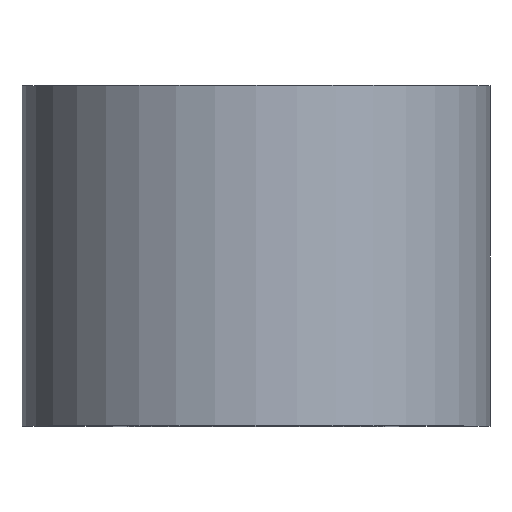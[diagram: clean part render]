
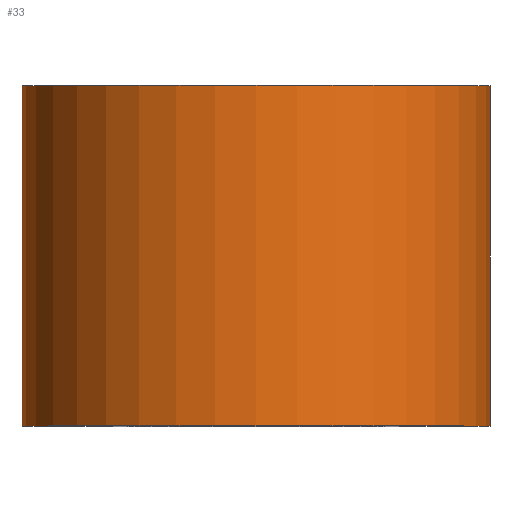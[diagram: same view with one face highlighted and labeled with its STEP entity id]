
A CAD part, top view. The second image highlights one B-rep face of the part: STEP entity #33.
In plain terms, the highlighted cylindrical face has radius 11 mm (diameter 22 mm), a partial arc.
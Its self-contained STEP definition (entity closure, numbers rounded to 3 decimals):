
#3 = VECTOR ( 'NONE', #57, 1000. ) ;
#8 = DIRECTION ( 'NONE',  ( -1., 0., 0. ) ) ;
#32 = DIRECTION ( 'NONE',  ( 0., 1., 0. ) ) ;
#33 = ADVANCED_FACE ( 'NONE', ( #43 ), #268, .T. ) ;
#37 = LINE ( 'NONE', #49, #88 ) ;
#42 = ORIENTED_EDGE ( 'NONE', *, *, #262, .T. ) ;
#43 = FACE_OUTER_BOUND ( 'NONE', #212, .T. ) ;
#49 = CARTESIAN_POINT ( 'NONE',  ( 11., 0., 0. ) ) ;
#50 = CARTESIAN_POINT ( 'NONE',  ( 0., 16., 0. ) ) ;
#53 = CARTESIAN_POINT ( 'NONE',  ( 0., 0., 0. ) ) ;
#57 = DIRECTION ( 'NONE',  ( 0., 1., 0. ) ) ;
#59 = DIRECTION ( 'NONE',  ( 0., 1., 0. ) ) ;
#66 = LINE ( 'NONE', #186, #3 ) ;
#79 = DIRECTION ( 'NONE',  ( -1., 0., 0. ) ) ;
#88 = VECTOR ( 'NONE', #32, 1000. ) ;
#95 = EDGE_CURVE ( 'NONE', #229, #157, #37, .T. ) ;
#121 = CARTESIAN_POINT ( 'NONE',  ( 11., 16., 0. ) ) ;
#127 = CARTESIAN_POINT ( 'NONE',  ( -11., 0., 0. ) ) ;
#128 = AXIS2_PLACEMENT_3D ( 'NONE', #178, #267, #131 ) ;
#131 = DIRECTION ( 'NONE',  ( -1., 0., 0. ) ) ;
#157 = VERTEX_POINT ( 'NONE', #121 ) ;
#159 = AXIS2_PLACEMENT_3D ( 'NONE', #53, #218, #8 ) ;
#161 = EDGE_CURVE ( 'NONE', #207, #157, #239, .T. ) ;
#162 = AXIS2_PLACEMENT_3D ( 'NONE', #50, #59, #79 ) ;
#174 = CIRCLE ( 'NONE', #128, 11. ) ;
#178 = CARTESIAN_POINT ( 'NONE',  ( 0., 0., 0. ) ) ;
#186 = CARTESIAN_POINT ( 'NONE',  ( -11., 0., 0. ) ) ;
#190 = VERTEX_POINT ( 'NONE', #127 ) ;
#192 = EDGE_CURVE ( 'NONE', #190, #207, #66, .T. ) ;
#200 = ORIENTED_EDGE ( 'NONE', *, *, #95, .T. ) ;
#207 = VERTEX_POINT ( 'NONE', #250 ) ;
#212 = EDGE_LOOP ( 'NONE', ( #42, #200, #237, #298 ) ) ;
#218 = DIRECTION ( 'NONE',  ( 0., 1., 0. ) ) ;
#223 = CARTESIAN_POINT ( 'NONE',  ( 11., 0., 0. ) ) ;
#229 = VERTEX_POINT ( 'NONE', #223 ) ;
#237 = ORIENTED_EDGE ( 'NONE', *, *, #161, .F. ) ;
#239 = CIRCLE ( 'NONE', #162, 11. ) ;
#250 = CARTESIAN_POINT ( 'NONE',  ( -11., 16., 0. ) ) ;
#262 = EDGE_CURVE ( 'NONE', #190, #229, #174, .T. ) ;
#267 = DIRECTION ( 'NONE',  ( 0., 1., 0. ) ) ;
#268 = CYLINDRICAL_SURFACE ( 'NONE', #159, 11. ) ;
#298 = ORIENTED_EDGE ( 'NONE', *, *, #192, .F. ) ;
